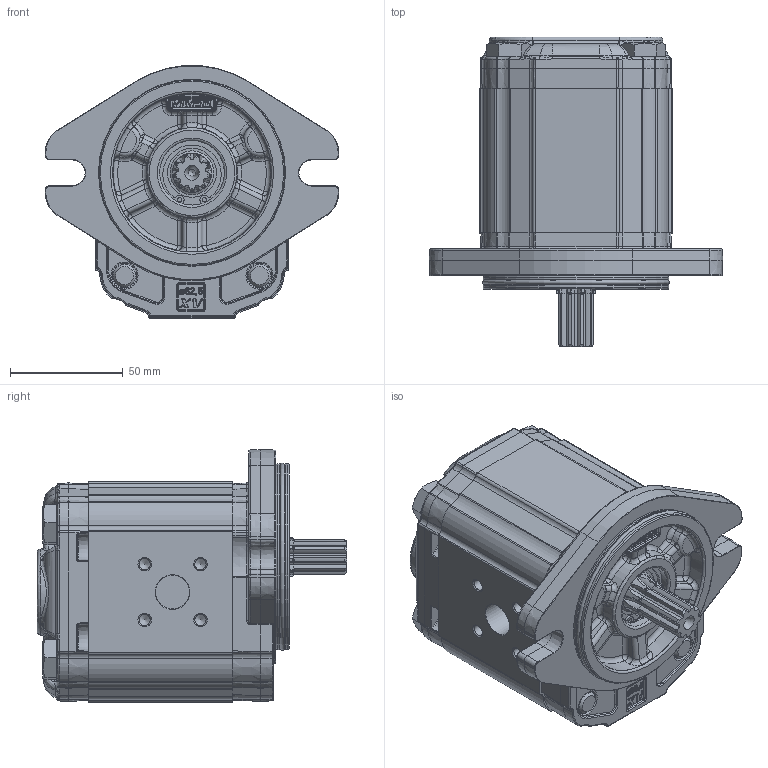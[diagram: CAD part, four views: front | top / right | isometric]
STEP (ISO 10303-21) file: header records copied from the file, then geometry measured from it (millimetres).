
FILE_DESCRIPTION(/* description */ ('Unknown'),/* implementation_level */ '2;1');
FILE_NAME(/* name */ 'X2R4931IRRF',/* time_stamp */ '2026-06-03T18:27:42+02:00',/* author */ ('Unknown'),/* organization */ ('Unknown'),/* preprocessor_version */ 'ST-DEVELOPER v16.7',/* originating_system */ 'Solid Edge',/* authorisation */ 'Unknown');
FILE_SCHEMA (('AUTOMOTIVE_DESIGN {1 0 10303 214 3 1 1}'));
Products named in the file (5): X2R4931IRRF; X2R31; 2I; X2RRH64; XR219-F
Assembly tree (4 placements, depth 2):
  X2R4931IRRF
    X2R31
    2I
    X2RRH64
    XR219-F
Bounding box: 130.38 x 137.7 x 112.3 mm (x, y, z)
Volume: 782187.7 mm3; surface area: 120462.2 mm2
Topology: 4 solids, 12 shells, 2981 faces, 7222 edges, 4287 vertices
Faces by surface type: cylinder 863, bspline 752, plane 690, cone 293, torus 281, sphere 102
Full cylindrical faces by diameter (mm): 2 x2, 5 x8, 8.5 x6, 10 x8, 10.5 x8, 15 x2, 16 x4, 17.42 x1, 17.48 x2, 18.724 x1, 20.595 x1, 21.741 x1, 25 x1, 25.834 x1, 28.56 x1, 28.57 x1, 28.8 x1, 30.4 x1, 79.6 x2, 82.5 x2
Entity records: 141061 total; most frequent: CARTESIAN_POINT 58542, ORIENTED_EDGE 13774, DIRECTION 11501, EDGE_CURVE 6887, AXIS2_PLACEMENT_3D 4626, VERTEX_POINT 4211, FACE_BOUND 3278, EDGE_LOOP 3268
